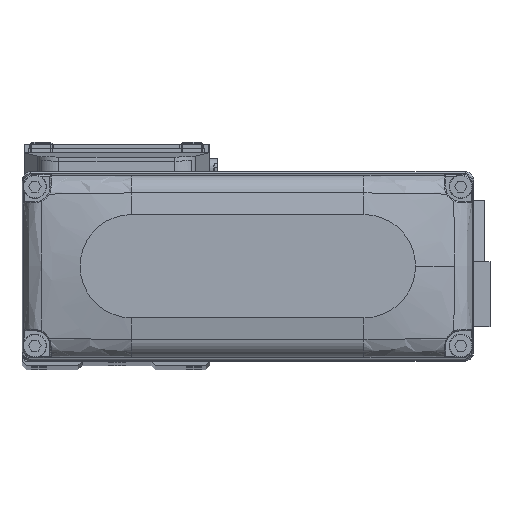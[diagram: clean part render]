
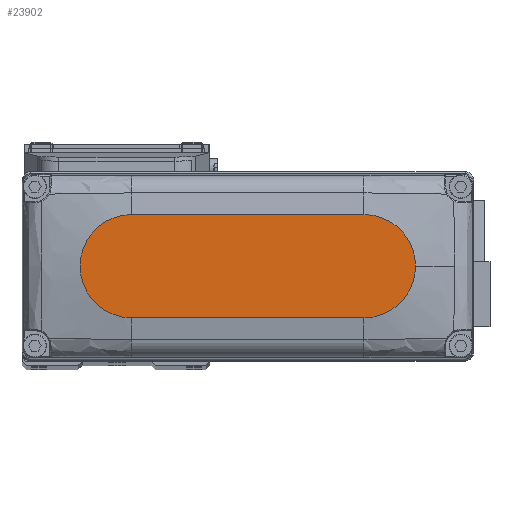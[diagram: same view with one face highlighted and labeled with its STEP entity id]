
A CAD part, top view. The second image highlights one B-rep face of the part: STEP entity #23902.
In plain terms, the highlighted planar face has unit normal (0, 0, 1).
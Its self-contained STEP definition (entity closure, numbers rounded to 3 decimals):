
#184 = DIRECTION ( 'NONE',  ( -1., 0., 0. ) ) ;
#1054 = VECTOR ( 'NONE', #184, 1000. ) ;
#1993 = EDGE_CURVE ( 'NONE', #4877, #17705, #6896, .T. ) ;
#3052 = AXIS2_PLACEMENT_3D ( 'NONE', #11314, #23591, #35905 ) ;
#3896 = CARTESIAN_POINT ( 'NONE',  ( -27., -12., 25. ) ) ;
#4877 = VERTEX_POINT ( 'NONE', #38402 ) ;
#5032 = DIRECTION ( 'NONE',  ( 1., 0., 0. ) ) ;
#6820 = DIRECTION ( 'NONE',  ( 0., 0., 1. ) ) ;
#6896 = CIRCLE ( 'NONE', #29409, 12. ) ;
#7687 = CIRCLE ( 'NONE', #30198, 12. ) ;
#9420 = CARTESIAN_POINT ( 'NONE',  ( 0., 0., 25. ) ) ;
#11314 = CARTESIAN_POINT ( 'NONE',  ( -27., 0., 25. ) ) ;
#14469 = CARTESIAN_POINT ( 'NONE',  ( 39., 0., 25. ) ) ;
#15500 = LINE ( 'NONE', #27794, #1054 ) ;
#16174 = DIRECTION ( 'NONE',  ( 1., 0., 0. ) ) ;
#17290 = ORIENTED_EDGE ( 'NONE', *, *, #1993, .T. ) ;
#17413 = EDGE_LOOP ( 'NONE', ( #33826, #23041, #30901, #17290, #17624 ) ) ;
#17624 = ORIENTED_EDGE ( 'NONE', *, *, #31190, .T. ) ;
#17705 = VERTEX_POINT ( 'NONE', #14469 ) ;
#19101 = DIRECTION ( 'NONE',  ( 1., 0., 0. ) ) ;
#19620 = CARTESIAN_POINT ( 'NONE',  ( -27., -12., 25. ) ) ;
#20330 = CARTESIAN_POINT ( 'NONE',  ( 27., 0., 25. ) ) ;
#20410 = CIRCLE ( 'NONE', #3052, 12. ) ;
#20878 = CARTESIAN_POINT ( 'NONE',  ( 27., 12., 25. ) ) ;
#21177 = CARTESIAN_POINT ( 'NONE',  ( -27., 12., 25. ) ) ;
#21702 = DIRECTION ( 'NONE',  ( 0., 0., 1. ) ) ;
#23041 = ORIENTED_EDGE ( 'NONE', *, *, #25816, .T. ) ;
#23422 = EDGE_CURVE ( 'NONE', #39088, #25888, #15500, .T. ) ;
#23591 = DIRECTION ( 'NONE',  ( 0., 0., 1. ) ) ;
#23608 = AXIS2_PLACEMENT_3D ( 'NONE', #9420, #21702, #34012 ) ;
#23902 = ADVANCED_FACE ( 'NONE', ( #24716 ), #37034, .T. ) ;
#24716 = FACE_OUTER_BOUND ( 'NONE', #17413, .T. ) ;
#25816 = EDGE_CURVE ( 'NONE', #25888, #30700, #20410, .T. ) ;
#25888 = VERTEX_POINT ( 'NONE', #21177 ) ;
#27794 = CARTESIAN_POINT ( 'NONE',  ( -27., 12., 25. ) ) ;
#29409 = AXIS2_PLACEMENT_3D ( 'NONE', #34423, #6820, #19101 ) ;
#30198 = AXIS2_PLACEMENT_3D ( 'NONE', #20330, #32638, #5032 ) ;
#30700 = VERTEX_POINT ( 'NONE', #19620 ) ;
#30901 = ORIENTED_EDGE ( 'NONE', *, *, #32455, .T. ) ;
#31190 = EDGE_CURVE ( 'NONE', #17705, #39088, #7687, .T. ) ;
#32209 = VECTOR ( 'NONE', #16174, 1000. ) ;
#32455 = EDGE_CURVE ( 'NONE', #30700, #4877, #34518, .T. ) ;
#32638 = DIRECTION ( 'NONE',  ( 0., 0., 1. ) ) ;
#33826 = ORIENTED_EDGE ( 'NONE', *, *, #23422, .T. ) ;
#34012 = DIRECTION ( 'NONE',  ( 1., 0., 0. ) ) ;
#34423 = CARTESIAN_POINT ( 'NONE',  ( 27., 0., 25. ) ) ;
#34518 = LINE ( 'NONE', #3896, #32209 ) ;
#35905 = DIRECTION ( 'NONE',  ( 1., 0., 0. ) ) ;
#37034 = PLANE ( 'NONE',  #23608 ) ;
#38402 = CARTESIAN_POINT ( 'NONE',  ( 27., -12., 25. ) ) ;
#39088 = VERTEX_POINT ( 'NONE', #20878 ) ;
